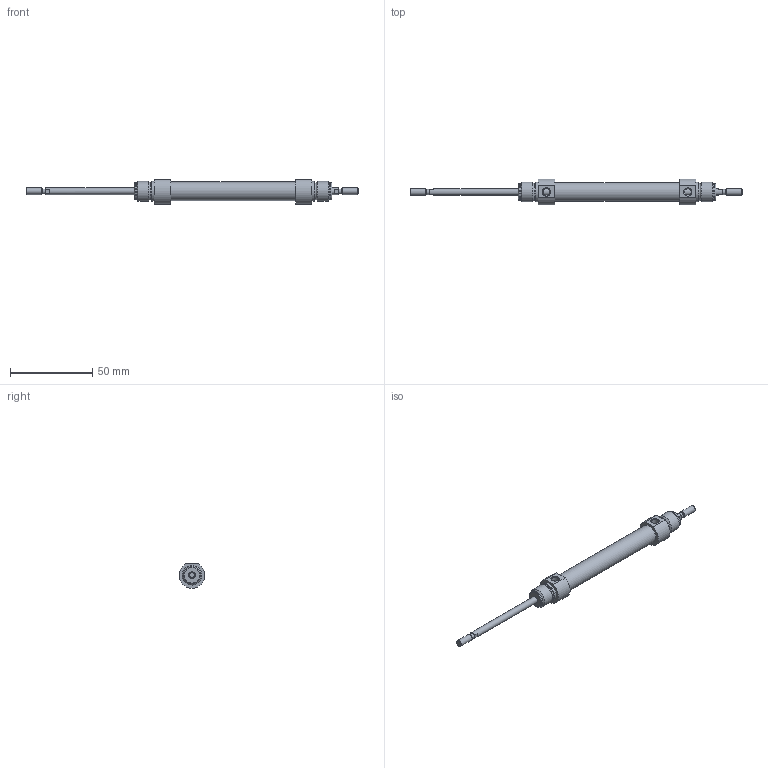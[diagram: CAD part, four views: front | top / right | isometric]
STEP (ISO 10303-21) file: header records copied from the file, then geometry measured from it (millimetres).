
FILE_DESCRIPTION( ( 'STEP AP203' ), '1' );
FILE_NAME( '//expscmdclustefs.cadenas.external/client_exchange/iodir/jobs/output/wkb68273086_no0/STEP/M101-010-0050--__0__2_03.stp', ' ', ( ' ' ), ( ' ' ), 'PSStep 15.0.47', 'PARTsolutions', ' ' );
FILE_SCHEMA( ( 'CONFIG_CONTROL_DESIGN' ) );
Length unit declared in the file: millimetre
Products named in the file (3): M101-010-0050-- [0]; HI_M101-010-0050---[0]-z; HI_M101-010-0050---[0]-k
Assembly tree (2 placements, depth 2):
  M101-010-0050-- [0]
    HI_M101-010-0050---[0]-z
    HI_M101-010-0050---[0]-k
Bounding box: 202 x 15.77 x 14.87 mm (x, y, z)
Volume: 11552.8 mm3; surface area: 10638.6 mm2
Topology: 2 solids, 2 shells, 71 faces, 145 edges, 88 vertices
Faces by surface type: plane 32, cylinder 23, cone 14, torus 2
Full cylindrical faces by diameter (mm): 3.141 x2, 4 x6, 4.134 x2, 10 x2, 10.466 x4, 11.3 x1, 12 x4
Entity records: 1832 total; most frequent: CARTESIAN_POINT 352, DIRECTION 312, ORIENTED_EDGE 212, AXIS2_PLACEMENT_3D 140, EDGE_LOOP 120, EDGE_CURVE 106, FACE_OUTER_BOUND 94, VERTEX_POINT 82
